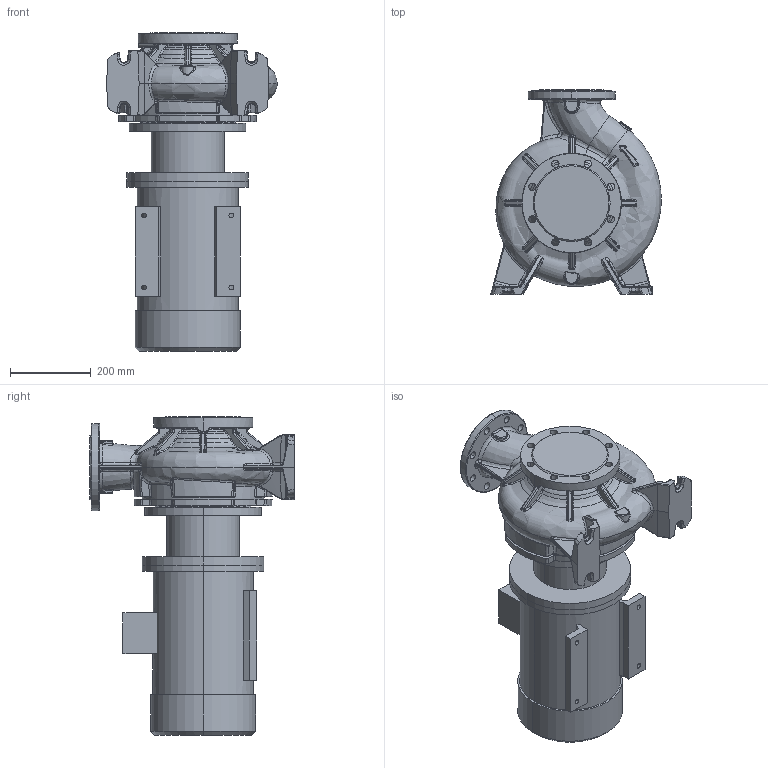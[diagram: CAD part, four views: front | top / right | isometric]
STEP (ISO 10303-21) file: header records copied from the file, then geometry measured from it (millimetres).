
FILE_DESCRIPTION (( 'STEP AP203' ), '1' );
FILE_NAME ('KRM 125-100-250-4-7,5.STEP', '2026-09-21T08:34:40', ( '' ), ( '' ), 'SwSTEP 2.0', 'SolidWorks 2016', '' );
FILE_SCHEMA (( 'CONFIG_CONTROL_DESIGN' ));
Length unit declared in the file: millimetre
Products named in the file (1): KRM 125-100-250-4-7,5
Bounding box: 421.5 x 505 x 787.8 mm (x, y, z)
Volume: 49520214.2 mm3; surface area: 1865851.2 mm2
Topology: 4 solids, 4 shells, 1173 faces, 2871 edges, 1696 vertices
Faces by surface type: bspline 493, cylinder 279, plane 180, torus 123, cone 67, sphere 31
Entity records: 85612 total; most frequent: CARTESIAN_POINT 61782, ORIENTED_EDGE 5676, DIRECTION 4125, EDGE_CURVE 2838, AXIS2_PLACEMENT_3D 1774, VERTEX_POINT 1696, EDGE_LOOP 1236, ADVANCED_FACE 1173
